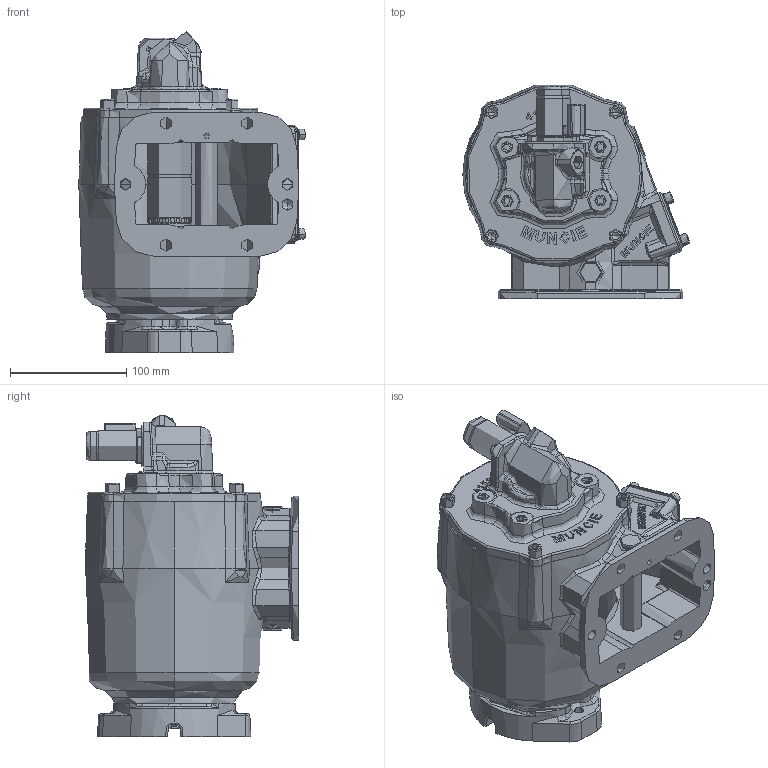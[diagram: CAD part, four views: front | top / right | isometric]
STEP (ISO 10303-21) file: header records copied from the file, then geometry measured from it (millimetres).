
FILE_DESCRIPTION (( 'STEP AP203' ), '1' );
FILE_NAME ('CS6S-XXXXX-S1RX.STEP', '2023-05-25T18:27:17', ( '' ), ( '' ), 'SwSTEP 2.0', 'SolidWorks 2021', '' );
FILE_SCHEMA (( 'CONFIG_CONTROL_DESIGN' ));
Length unit declared in the file: inch
Products named in the file (13): 16T41119; 19T35237; CS6S-XXXXX-S1RX; 14T39141; 25T21684-1; 01t37073a; 15T41597; 07T37071; 19T40859; 14TA3997; 06T38964_06T38964; 35T40860a; 19T41118
Assembly tree (23 placements, depth 3):
  CS6S-XXXXX-S1RX
    01t37073a
    16T41119
    19T41118  x4
    19T35237  x4
    15T41597
    35T40860a
    25T21684-1  x5
    07T37071
    19T40859  x2
    14TA3997
      14T39141
    06T38964_06T38964
Bounding box: 194.82 x 183.98 x 276.63 mm (x, y, z)
Topology: 21 solids, 25 shells, 3188 faces, 8155 edges, 5074 vertices
Faces by surface type: bspline 1029, plane 884, cylinder 713, cone 334, torus 224, sphere 4
Entity records: 202382 total; most frequent: CARTESIAN_POINT 136762, ORIENTED_EDGE 15162, DIRECTION 10382, EDGE_CURVE 7583, VERTEX_POINT 4779, AXIS2_PLACEMENT_3D 3934, EDGE_LOOP 3212, B_SPLINE_CURVE_WITH_KNOTS 3008
